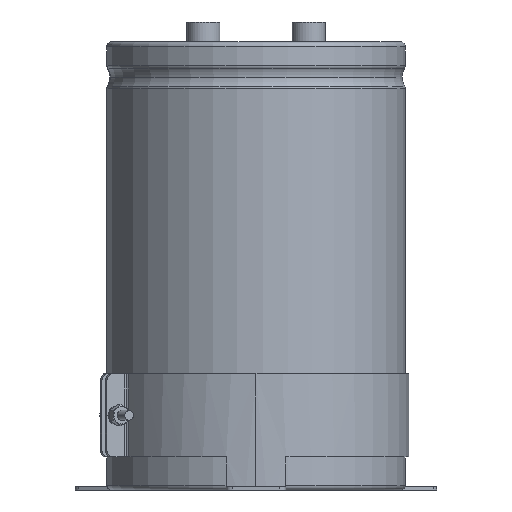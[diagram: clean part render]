
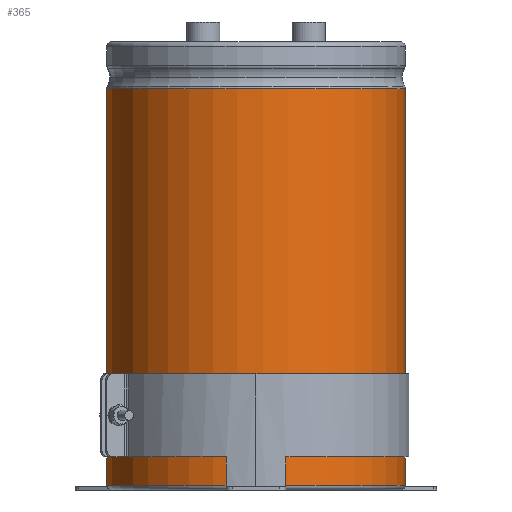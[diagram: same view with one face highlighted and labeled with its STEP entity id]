
A CAD part, left-side view. The second image highlights one B-rep face of the part: STEP entity #365.
In plain terms, the highlighted cylindrical face has radius 45 mm (diameter 90 mm), a partial arc.
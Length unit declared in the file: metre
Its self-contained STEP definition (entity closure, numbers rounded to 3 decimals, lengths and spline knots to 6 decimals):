
#365=ADVANCED_FACE('0:237',(#597),#598,.T.);
#597=FACE_OUTER_BOUND('',#1082,.T.);
#598=CYLINDRICAL_SURFACE('',#1083,0.045);
#1082=EDGE_LOOP('',(#2038,#2039,#2040,#2041));
#1083=AXIS2_PLACEMENT_3D('',#2042,#2043,#2044);
#2038=ORIENTED_EDGE('',*,*,#2995,.T.);
#2039=ORIENTED_EDGE('',*,*,#3004,.T.);
#2040=ORIENTED_EDGE('',*,*,#3006,.T.);
#2041=ORIENTED_EDGE('',*,*,#3007,.F.);
#2042=CARTESIAN_POINT('',(0.0,0.0,0.0));
#2043=DIRECTION('',(-0.0,0.0,1.0));
#2044=DIRECTION('',(0.0,1.0,0.0));
#2995=EDGE_CURVE('',#5626,#5634,#5635,.T.);
#3004=EDGE_CURVE('0:309',#5634,#5645,#5647,.T.);
#3006=EDGE_CURVE('0:312',#5645,#5649,#5650,.T.);
#3007=EDGE_CURVE('0:315',#5626,#5649,#5651,.T.);
#5626=VERTEX_POINT('',#6662);
#5634=VERTEX_POINT('',#6670);
#5635=LINE('',#6671,#6672);
#5645=VERTEX_POINT('',#6683);
#5647=CIRCLE('',#6685,0.045);
#5649=VERTEX_POINT('',#6687);
#5650=LINE('',#6688,#6689);
#5651=CIRCLE('',#6690,0.045);
#6662=CARTESIAN_POINT('',(0.,-0.045,0.0015));
#6670=CARTESIAN_POINT('',(0.,-0.045,0.1209));
#6671=CARTESIAN_POINT('',(0.,-0.045,0.0612));
#6672=VECTOR('',#8209,1.0);
#6683=CARTESIAN_POINT('',(-0.004,0.044822,0.1209));
#6685=AXIS2_PLACEMENT_3D('',#8226,#8227,#8228);
#6687=CARTESIAN_POINT('',(-0.004,0.044822,0.0015));
#6688=CARTESIAN_POINT('',(-0.004,0.044822,0.1209));
#6689=VECTOR('',#8229,0.001);
#6690=AXIS2_PLACEMENT_3D('',#8230,#8231,#8232);
#8209=DIRECTION('',(0.0,0.0,1.0));
#8226=CARTESIAN_POINT('',(0.0,0.0,0.1209));
#8227=DIRECTION('',(0.0,0.0,-1.0));
#8228=DIRECTION('',(0.0,1.0,0.0));
#8229=DIRECTION('',(0.0,0.0,-1.0));
#8230=CARTESIAN_POINT('',(0.0,0.0,0.0015));
#8231=DIRECTION('',(0.0,0.0,-1.0));
#8232=DIRECTION('',(0.0,1.0,0.0));
